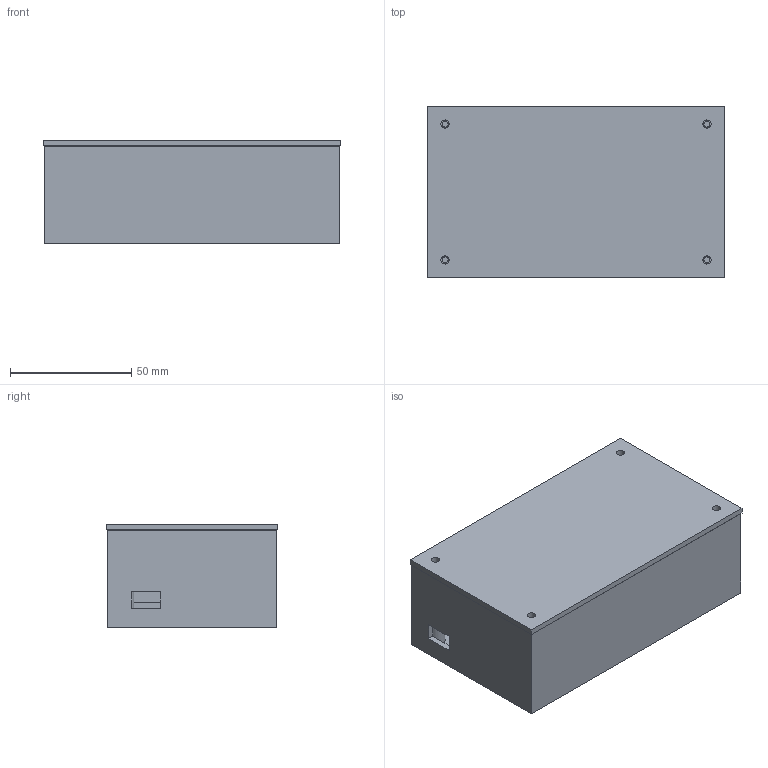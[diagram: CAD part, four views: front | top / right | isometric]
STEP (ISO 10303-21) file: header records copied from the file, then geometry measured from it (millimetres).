
FILE_DESCRIPTION(('Open CASCADE Model'),'2;1');
FILE_NAME('Open CASCADE Shape Model','2026-10-03T09:08:04',('Author'),( 'Open CASCADE'),'Open CASCADE STEP processor 7.8','Open CASCADE 7.8' ,'Unknown');
FILE_SCHEMA(('AUTOMOTIVE_DESIGN { 1 0 10303 214 1 1 1 1 }'));
Length unit declared in the file: millimetre
Products named in the file (6): plantsense-enclosure; base; lid; mcu; battery; boost
Assembly tree (5 placements, depth 2):
  plantsense-enclosure
    base
    lid
    mcu
    battery
    boost
Bounding box: 122.8 x 70.8 x 42.8 mm (x, y, z)
Volume: 141676.7 mm3; surface area: 80868.6 mm2
Topology: 5 solids, 5 shells, 60 faces, 123 edges, 82 vertices
Faces by surface type: plane 47, cylinder 13
Full cylindrical faces by diameter (mm): 2.5 x4, 3.4 x4, 6 x1, 8 x4
Entity records: 3309 total; most frequent: CARTESIAN_POINT 541, DIRECTION 503, LINE 293, VECTOR 293, ORIENTED_EDGE 246, PCURVE 246, DEFINITIONAL_REPRESENTATION 246, EDGE_CURVE 123
